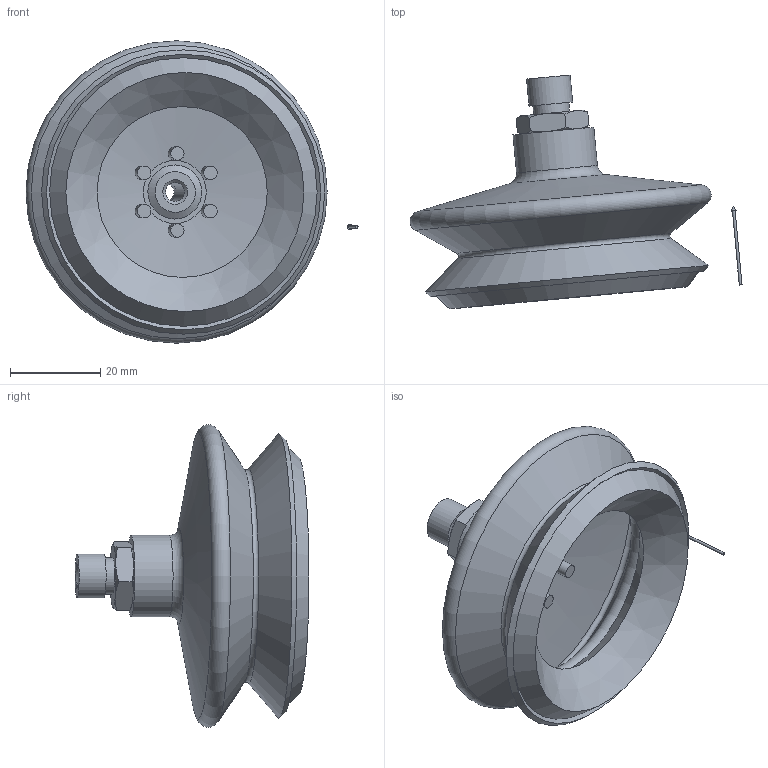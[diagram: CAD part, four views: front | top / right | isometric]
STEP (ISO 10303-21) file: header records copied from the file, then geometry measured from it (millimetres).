
FILE_DESCRIPTION(('STEP AP214'),'1');
FILE_NAME('KIT.08.26.D63.11.stp','2024-07-16T06:51:02',(' '),(' '),'Spatial InterOp 3D',' ',' ');
FILE_SCHEMA(('AUTOMOTIVE_DESIGN { 1 0 10303 214 1 1 1 1 }'));
Length unit declared in the file: millimetre
Products named in the file (6): KIT.08.26.D63.11; CA.08.09.043; CA.08.26.D63.AS; FRECCIA.17.5; 08.26.D63; 08.26.D63.AS
Assembly tree (5 placements, depth 3):
  KIT.08.26.D63.11
    CA.08.09.043
    CA.08.26.D63.AS
      FRECCIA.17.5
      08.26.D63
      08.26.D63.AS
Bounding box: 73.56 x 51.83 x 67 mm (x, y, z)
Volume: 25447 mm3; surface area: 23337.5 mm2
Topology: 4 solids, 4 shells, 69 faces, 145 edges, 86 vertices
Faces by surface type: cone 27, plane 22, cylinder 15, torus 5
Full cylindrical faces by diameter (mm): 0.6 x1, 3 x6, 4.2 x2, 8 x2, 8.8 x1, 9.7 x1, 12 x1, 18 x1
Entity records: 2789 total; most frequent: CARTESIAN_POINT 675, DIRECTION 278, ORIENTED_EDGE 192, AXIS2_PLACEMENT_3D 136, EDGE_LOOP 112, EDGE_CURVE 96, FACE_OUTER_BOUND 89, STYLED_ITEM 73
